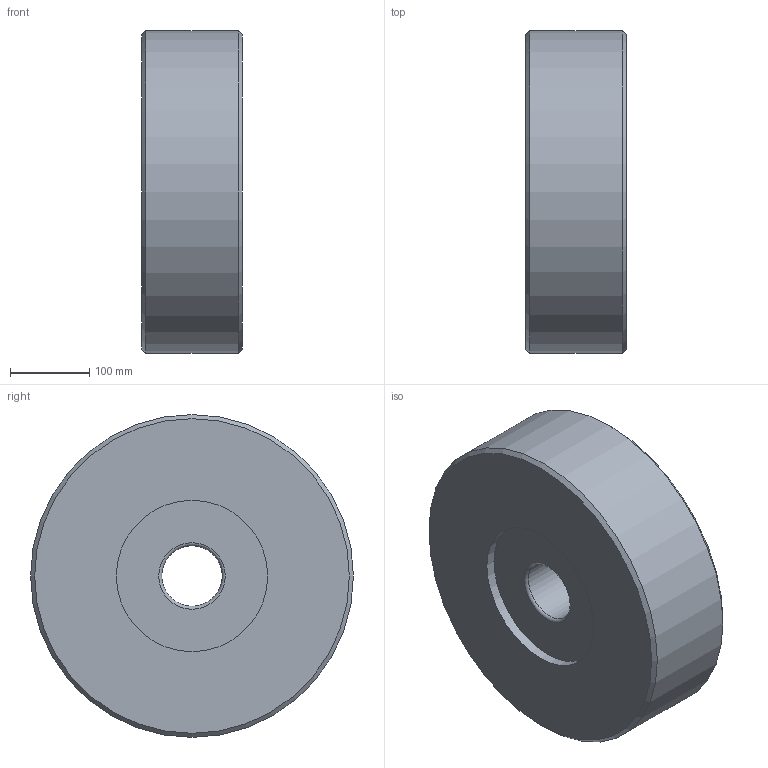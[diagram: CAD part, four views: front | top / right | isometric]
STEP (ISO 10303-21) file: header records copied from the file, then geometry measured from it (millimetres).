
FILE_DESCRIPTION((''),'1');
FILE_NAME('H:/図庫/国内ﾕﾆｯﾄ/ｶﾀﾛｸﾞ/樹脂巻き/ホームページ用ＣＡＤ図面/update用/3D/', '2017-07-13T02:51:54',(''), (''), 'KCM Version 1.1.1442.0', 'Kubotek KeyCreator', '');
FILE_SCHEMA(('AUTOMOTIVE_DESIGN'));
Length unit declared in the file: inch
Bounding box: 127 x 406.4 x 406.4 mm (x, y, z)
Surface area: 443547.2 mm2 (no closed solid volume)
Topology: 0 solids, 12 shells, 12 faces, 40 edges, 32 vertices
Faces by surface type: cylinder 4, plane 4, cone 2, torus 2
Full cylindrical faces by diameter (mm): 76.2 x1, 190.5 x2, 406.4 x1
Entity records: 476 total; most frequent: DIRECTION 92, CARTESIAN_POINT 81, ORIENTED_EDGE 48, AXIS2_PLACEMENT_3D 43, EDGE_CURVE 40, VERTEX_POINT 32, CIRCLE 30, EDGE_LOOP 16
